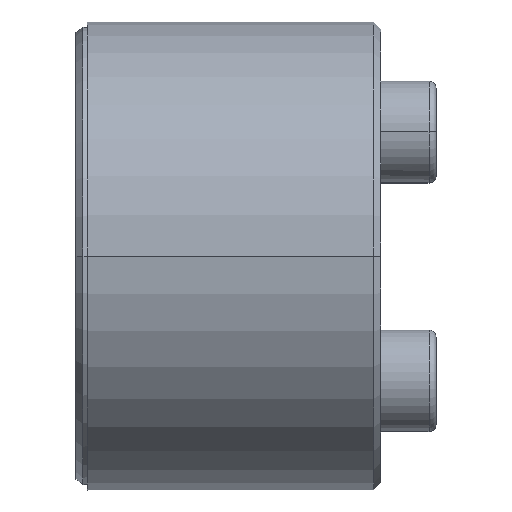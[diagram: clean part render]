
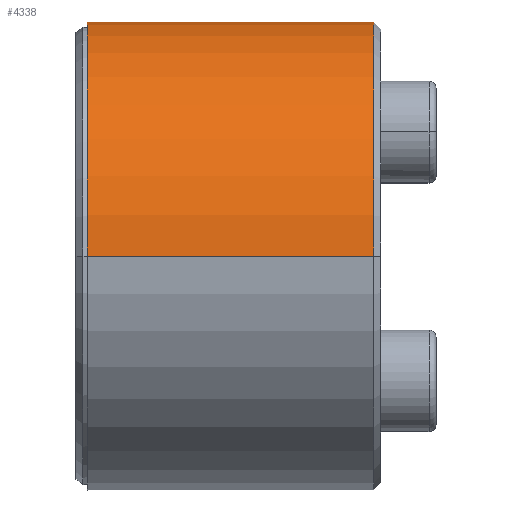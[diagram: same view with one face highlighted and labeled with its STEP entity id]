
A CAD part, top view. The second image highlights one B-rep face of the part: STEP entity #4338.
In plain terms, the highlighted cylindrical face has radius 10 mm (diameter 20 mm), a partial arc.
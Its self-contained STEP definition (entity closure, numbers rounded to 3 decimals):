
#39 = DIRECTION ( 'NONE',  ( 1., 0., 0. ) ) ;
#42 = CARTESIAN_POINT ( 'NONE',  ( 12.691, 0., -10. ) ) ;
#97 = ORIENTED_EDGE ( 'NONE', *, *, #1744, .F. ) ;
#197 = ORIENTED_EDGE ( 'NONE', *, *, #1295, .T. ) ;
#232 = DIRECTION ( 'NONE',  ( -1., 0., 0. ) ) ;
#313 = CIRCLE ( 'NONE', #678, 10. ) ;
#409 = DIRECTION ( 'NONE',  ( 0., -0.995, 0.1 ) ) ;
#489 = AXIS2_PLACEMENT_3D ( 'NONE', #4152, #39, #3495 ) ;
#678 = AXIS2_PLACEMENT_3D ( 'NONE', #2630, #232, #4007 ) ;
#845 = AXIS2_PLACEMENT_3D ( 'NONE', #3480, #1714, #409 ) ;
#865 = EDGE_CURVE ( 'NONE', #3426, #1360, #2523, .T. ) ;
#915 = CARTESIAN_POINT ( 'NONE',  ( 0.491, 0., 10. ) ) ;
#1295 = EDGE_CURVE ( 'NONE', #1360, #3463, #4207, .T. ) ;
#1360 = VERTEX_POINT ( 'NONE', #2578 ) ;
#1575 = ORIENTED_EDGE ( 'NONE', *, *, #865, .T. ) ;
#1668 = EDGE_LOOP ( 'NONE', ( #97, #1925, #1575, #197 ) ) ;
#1714 = DIRECTION ( 'NONE',  ( -1., 0., 0. ) ) ;
#1744 = EDGE_CURVE ( 'NONE', #2799, #3463, #2068, .T. ) ;
#1925 = ORIENTED_EDGE ( 'NONE', *, *, #2048, .F. ) ;
#2048 = EDGE_CURVE ( 'NONE', #3426, #2799, #313, .T. ) ;
#2068 = LINE ( 'NONE', #3406, #4190 ) ;
#2394 = DIRECTION ( 'NONE',  ( 1., 0., 0. ) ) ;
#2484 = FACE_OUTER_BOUND ( 'NONE', #1668, .T. ) ;
#2523 = LINE ( 'NONE', #915, #4277 ) ;
#2578 = CARTESIAN_POINT ( 'NONE',  ( 12.691, 0., 10. ) ) ;
#2630 = CARTESIAN_POINT ( 'NONE',  ( 0.491, 0., 0. ) ) ;
#2799 = VERTEX_POINT ( 'NONE', #2872 ) ;
#2872 = CARTESIAN_POINT ( 'NONE',  ( 0.491, 0., -10. ) ) ;
#3321 = DIRECTION ( 'NONE',  ( 1., 0., 0. ) ) ;
#3402 = CARTESIAN_POINT ( 'NONE',  ( 0.491, 0., 10. ) ) ;
#3406 = CARTESIAN_POINT ( 'NONE',  ( 0.491, 0., -10. ) ) ;
#3426 = VERTEX_POINT ( 'NONE', #3402 ) ;
#3463 = VERTEX_POINT ( 'NONE', #42 ) ;
#3480 = CARTESIAN_POINT ( 'NONE',  ( 12.691, 0., 0. ) ) ;
#3495 = DIRECTION ( 'NONE',  ( 0., 0., 1. ) ) ;
#3539 = CYLINDRICAL_SURFACE ( 'NONE', #489, 10. ) ;
#4007 = DIRECTION ( 'NONE',  ( 0., -0.995, 0.1 ) ) ;
#4152 = CARTESIAN_POINT ( 'NONE',  ( 0.491, 0., 0. ) ) ;
#4190 = VECTOR ( 'NONE', #2394, 1000. ) ;
#4207 = CIRCLE ( 'NONE', #845, 10. ) ;
#4277 = VECTOR ( 'NONE', #3321, 1000. ) ;
#4338 = ADVANCED_FACE ( 'NONE', ( #2484 ), #3539, .T. ) ;
